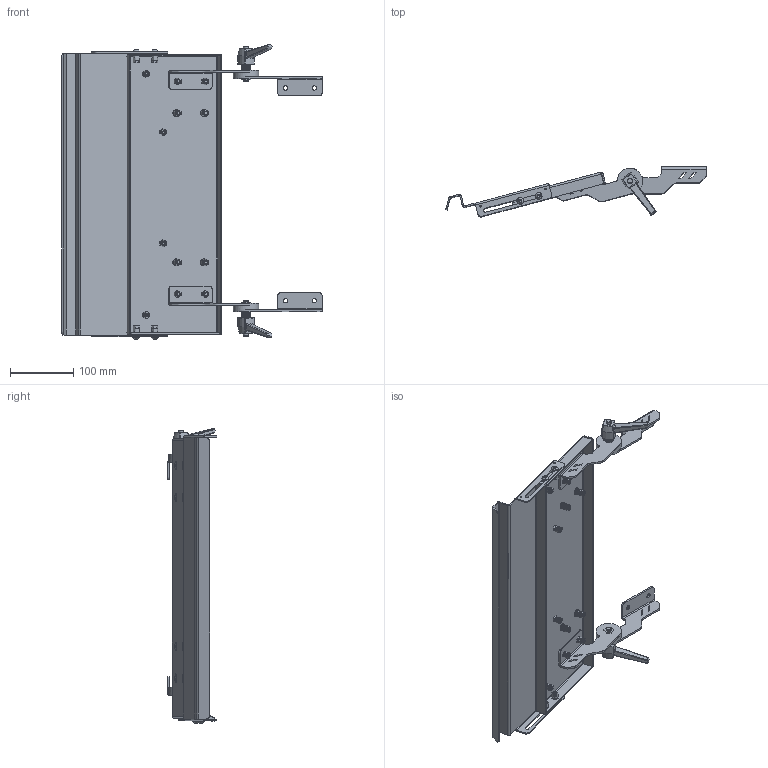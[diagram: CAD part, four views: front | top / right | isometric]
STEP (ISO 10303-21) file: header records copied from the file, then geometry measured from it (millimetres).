
FILE_DESCRIPTION (( 'STEP AP203' ), '1' );
FILE_NAME ('KLV-SC-L-1.STEP', '2024-10-18T11:14:27', ( '' ), ( '' ), 'SwSTEP 2.0', 'SolidWorks 2022', '' );
FILE_SCHEMA (( 'CONFIG_CONTROL_DESIGN' ));
Products named in the file (1): KLV-SC-L-1
Bounding box: 410 x 78.14 x 463.07 mm (x, y, z)
Volume: 479688.1 mm3; surface area: 429806.2 mm2
Topology: 1 solids, 135 shells, 2588 faces, 6823 edges, 4199 vertices
Faces by surface type: cylinder 860, cone 794, plane 712, sphere 104, torus 78, bspline 40
Full cylindrical faces by diameter (mm): 2.5 x2, 4.9 x12, 6 x32, 6.8 x6, 7 x4, 7.8 x16, 8 x8, 10.5 x4, 11 x16, 11.6 x8, 40 x2
Entity records: 72443 total; most frequent: CARTESIAN_POINT 15087, DIRECTION 12314, ORIENTED_EDGE 10624, EDGE_CURVE 5312, AXIS2_PLACEMENT_3D 4881, EDGE_LOOP 3698, VERTEX_POINT 3638, FACE_OUTER_BOUND 2764
